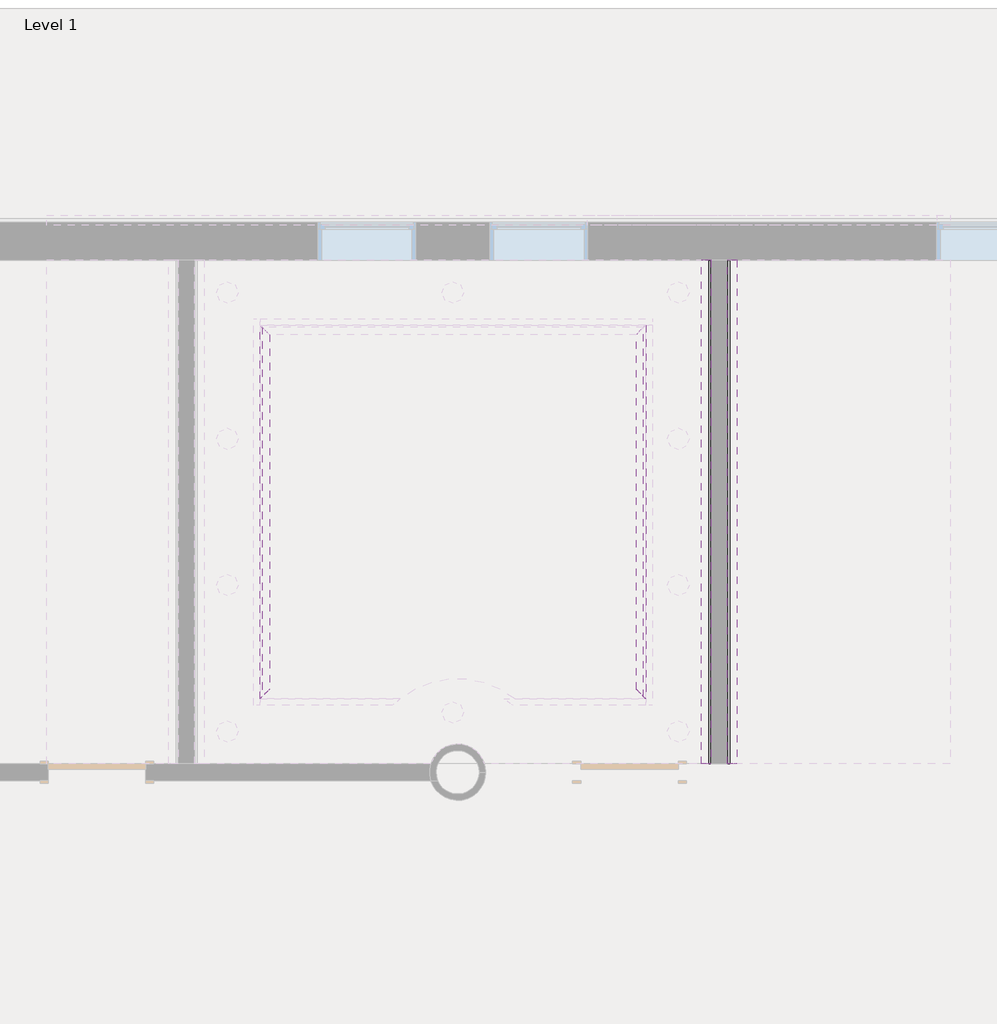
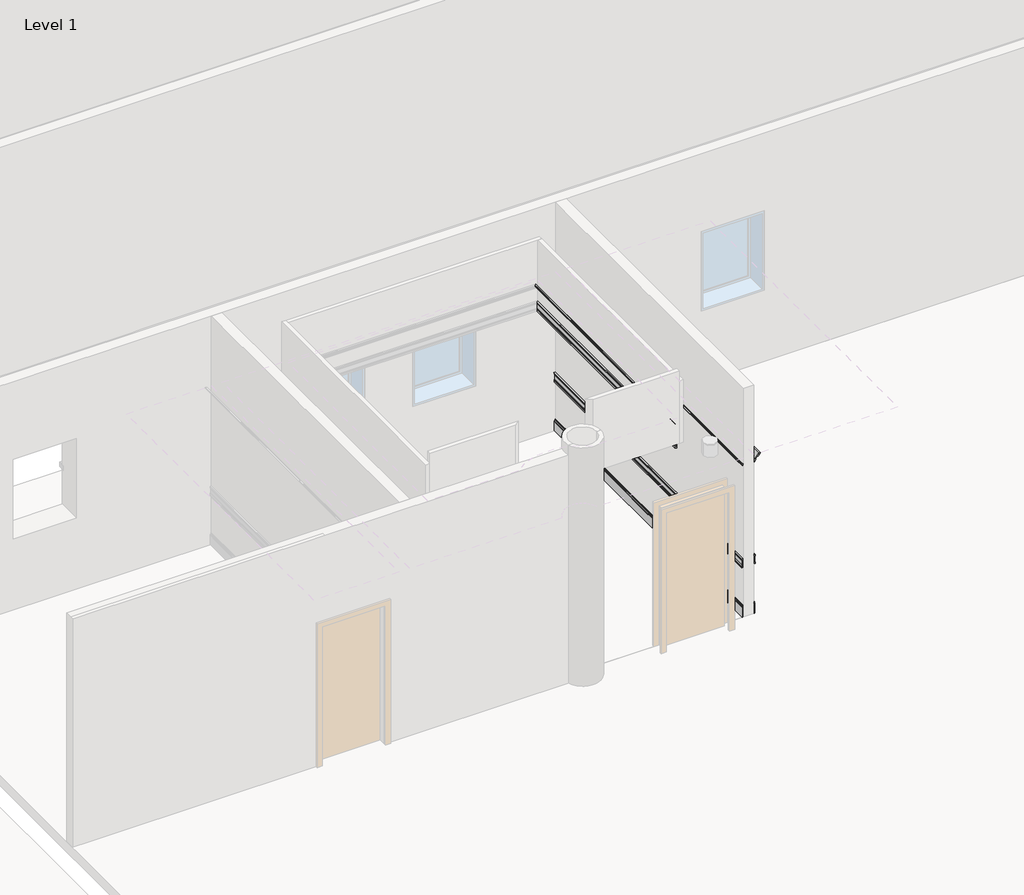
# One storey, part 19 of 20: 10 proxies.
"""IFC4 building model written with IfcOpenShell, lengths in millimetres."""

from ifc_helpers import new_model, si_unit, point, frame, frame_2d, origin, place, context, project, spatial, polyline, circle_curve, ellipse_curve, trimmed, segment, composite_curve, outline, extrude, element, save
from ifc_brep_helpers import plane_surface, cylinder_surface, revolved_surface, advanced_brep

model = new_model("IFC4")

# Units and contexts
model_context = context("Model", 3, world=origin())
ifc_project = project(units=[si_unit("LENGTHUNIT", "METRE", prefix="MILLI")], contexts=[model_context])

# Site, building, storey
site = spatial("IfcSite", under=ifc_project)
building = spatial("IfcBuilding", under=site)
storey = spatial("IfcBuildingStorey", under=building, Name="Level 1", Elevation=0.0)

# Proxies
placement = place(None, origin())
element("IfcBuildingElementProxy", 1, Name="Wall Sweeps", at=placement, inside=storey, context=model_context, shape_type="AdvancedBrep", body=[
    advanced_brep(
    [(-11474.2076946, 5223.7273319, 2457.45), (-11475.7951946, 5222.1398319, 2455.8625), (-11475.7951946, 5222.1398319, 2438.4), (-11455.1576946, 5242.7773319, 2438.4), (-11455.1576946, 5242.7773319, 2457.45), (-11457.5389446, 5240.3960819, 2457.45), (-11458.6301983, 5239.3048282, 2463.7601121), (-11462.5590603, 5235.3759661, 2472.53125), (-11464.6826946, 5233.2523319, 2472.53125), (-11464.6826946, 5233.2523319, 2543.96875), (-11462.5590603, 5235.3759661, 2543.96875), (-11458.6301983, 5239.3048282, 2552.7398879), (-11457.5389446, 5240.3960819, 2559.05), (-11455.1576946, 5242.7773319, 2559.05), (-11455.1576946, 5242.7773319, 2578.1), (-11475.7951946, 5222.1398319, 2578.1), (-11475.7951946, 5222.1398319, 2560.6375), (-11474.2076946, 5223.7273319, 2559.05), (-11475.7951946, 8724.1648319, 2455.8625), (-11474.2076946, 8722.5773319, 2457.45), (-11474.2076946, 8722.5773319, 2559.05), (-11475.7951946, 8724.1648319, 2560.6375), (-11475.7951946, 8724.1648319, 2578.1), (-11455.1576946, 8703.5273319, 2578.1), (-11455.1576946, 8703.5273319, 2559.05), (-11457.5389446, 8705.9085819, 2559.05), (-11458.6301983, 8706.9998357, 2552.7398879), (-11462.5590603, 8710.9286977, 2543.96875), (-11464.6826946, 8713.0523319, 2543.96875), (-11464.6826946, 8713.0523319, 2472.53125), (-11462.5590603, 8710.9286977, 2472.53125), (-11458.6301983, 8706.9998357, 2463.7601121), (-11457.5389446, 8705.9085819, 2457.45), (-11455.1576946, 8703.5273319, 2457.45), (-11455.1576946, 8703.5273319, 2438.4), (-11475.7951946, 8724.1648319, 2438.4)],
    [
        (0, 1),
        (1, 2),
        (2, 3),
        (3, 4),
        (4, 5),
        (5, 6, ellipse_curve(frame((-11462.5590603, 5235.3759661, 2459.83125), z_axis=(0.7071067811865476, -0.7071067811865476, 0.0), x_axis=(-0.7071067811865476, -0.7071067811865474, 0.0)), 7.8577241, 5.55625)),
        (6, 7, ellipse_curve(frame((-11450.8433753, 5247.0916512, 2472.5135672), z_axis=(-0.7071067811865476, 0.7071067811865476, 0.0), x_axis=(0.7071067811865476, 0.7071067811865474, 0.0)), 16.5684996, 11.7156984)),
        (7, 8),
        (8, 9),
        (9, 10),
        (10, 11, ellipse_curve(frame((-11450.8433753, 5247.0916512, 2543.9864328), z_axis=(-0.7071067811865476, 0.7071067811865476, 0.0), x_axis=(0.7071067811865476, 0.7071067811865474, 0.0)), 16.5684996, 11.7156984)),
        (11, 12, ellipse_curve(frame((-11462.5590603, 5235.3759661, 2556.66875), z_axis=(0.7071067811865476, -0.7071067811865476, 0.0), x_axis=(-0.7071067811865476, -0.7071067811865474, 0.0)), 7.8577241, 5.55625)),
        (12, 13),
        (13, 14),
        (14, 15),
        (15, 16),
        (16, 17),
        (17, 0),
        (18, 19),
        (19, 20),
        (20, 21),
        (21, 22),
        (22, 23),
        (23, 24),
        (24, 25),
        (25, 26, ellipse_curve(frame((-11462.5590603, 8710.9286977, 2556.66875), z_axis=(0.7071067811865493, 0.7071067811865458, 0.0), x_axis=(0.7071067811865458, -0.7071067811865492, 0.0)), 7.8577241, 5.55625)),
        (26, 27, ellipse_curve(frame((-11450.8433753, 8699.2130126, 2543.9864328), z_axis=(-0.7071067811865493, -0.7071067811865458, 0.0), x_axis=(-0.7071067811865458, 0.7071067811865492, 0.0)), 16.5684996, 11.7156984)),
        (27, 28),
        (28, 29),
        (29, 30),
        (30, 31, ellipse_curve(frame((-11450.8433753, 8699.2130126, 2472.5135672), z_axis=(-0.7071067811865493, -0.7071067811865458, 0.0), x_axis=(-0.7071067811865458, 0.7071067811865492, 0.0)), 16.5684996, 11.7156984)),
        (31, 32, ellipse_curve(frame((-11462.5590603, 8710.9286977, 2459.83125), z_axis=(0.7071067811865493, 0.7071067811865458, 0.0), x_axis=(0.7071067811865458, -0.7071067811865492, 0.0)), 7.8577241, 5.55625)),
        (32, 33),
        (33, 34),
        (34, 35),
        (35, 18),
        (0, 19),
        (18, 1),
        (35, 2),
        (34, 3),
        (33, 4),
        (32, 5),
        (31, 6),
        (30, 7),
        (29, 8),
        (28, 9),
        (27, 10),
        (26, 11),
        (25, 12),
        (24, 13),
        (23, 14),
        (22, 15),
        (21, 16),
        (20, 17),
    ],
    [
        plane_surface(frame((-11475.7951946, 5222.1398319, 2743.2), z_axis=(0.7071067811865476, -0.7071067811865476, 0.0), x_axis=(0.7071067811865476, 0.7071067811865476, 0.0))),
        plane_surface(frame((-11475.7951946, 8724.1648319, 2743.2), z_axis=(0.7071067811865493, 0.7071067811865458, 0.0), x_axis=(0.7071067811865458, -0.7071067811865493, 0.0))),
        plane_surface(frame((-11474.2076946, 5223.7273319, 2457.45), z_axis=(-0.7071067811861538, 0.0, 0.7071067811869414), x_axis=(0.0, 1.0, 0.0))),
        plane_surface(frame((-11475.7951946, 5222.1398319, 2455.8625), z_axis=(-1.0, 0.0, 0.0), x_axis=(0.0, 1.0, 0.0))),
        plane_surface(frame((-11475.7951946, 5222.1398319, 2438.4), z_axis=(0.0, 0.0, -1.0), x_axis=(0.0, 1.0, 0.0))),
        plane_surface(frame((-11455.1576946, 5242.7773319, 2438.4), z_axis=(1.0, 0.0, 0.0), x_axis=(0.0, 1.0, 0.0))),
        plane_surface(frame((-11455.1576946, 5242.7773319, 2457.45), z_axis=(0.0, 0.0, 1.0), x_axis=(0.0, 1.0, 0.0))),
        cylinder_surface(frame((-11462.5590603, 5222.1398319, 2459.83125), z_axis=(0.0, -1.0, 0.0), x_axis=(1.0, 0.0, 0.0)), 5.55625),
        revolved_surface(polyline([(-11439.127676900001, 8710.928711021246, 2472.5135672), (-11439.127676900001, 5235.375952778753, 2472.5135672)]), (-11450.8433753, 5222.1398319, 2472.5135672), (0.0, 1.0, 0.0)),
        plane_surface(frame((-11462.5590603, 5235.3759661, 2472.53125), z_axis=(0.0, 0.0, 1.0), x_axis=(0.0, 1.0, 0.0))),
        plane_surface(frame((-11464.6826946, 5233.2523319, 2472.53125), z_axis=(1.0, 0.0, 0.0), x_axis=(0.0, 1.0, 0.0))),
        plane_surface(frame((-11464.6826946, 5233.2523319, 2543.96875), z_axis=(0.0, 0.0, -1.0), x_axis=(0.0, 1.0, 0.0))),
        revolved_surface(polyline([(-11439.127676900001, 8710.928711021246, 2543.9864328), (-11439.127676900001, 5235.375952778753, 2543.9864328)]), (-11450.8433753, 5222.1398319, 2543.9864328), (0.0, 1.0, 0.0)),
        cylinder_surface(frame((-11462.5590603, 5222.1398319, 2556.66875), z_axis=(0.0, -1.0, 0.0), x_axis=(1.0, 0.0, 0.0)), 5.55625),
        plane_surface(frame((-11457.5389446, 5240.3960819, 2559.05), z_axis=(0.0, 0.0, -1.0), x_axis=(0.0, 1.0, 0.0))),
        plane_surface(frame((-11455.1576946, 5242.7773319, 2559.05), z_axis=(1.0, 0.0, 0.0), x_axis=(0.0, 1.0, 0.0))),
        plane_surface(frame((-11455.1576946, 5242.7773319, 2578.1), z_axis=(0.0, 0.0, 1.0), x_axis=(0.0, 1.0, 0.0))),
        plane_surface(frame((-11475.7951946, 5222.1398319, 2578.1), z_axis=(-1.0, 0.0, 0.0), x_axis=(0.0, 1.0, 0.0))),
        plane_surface(frame((-11475.7951946, 5222.1398319, 2560.6375), z_axis=(-0.7071067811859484, 0.0, -0.7071067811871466), x_axis=(0.0, 1.0, 0.0))),
        plane_surface(frame((-11474.2076946, 5223.7273319, 2559.05), z_axis=(-1.0, 0.0, 0.0), x_axis=(0.0, 1.0, 0.0))),
    ],
    [
        (0, [[1, 2, 3, 4, 5, 6, 7, 8, 9, 10, 11, 12, 13, 14, 15, 16, 17, 18]]),
        (1, [[19, 20, 21, 22, 23, 24, 25, 26, 27, 28, 29, 30, 31, 32, 33, 34, 35, 36]]),
        (2, [[-1, 37, -19, 38]]),
        (3, [[-2, -38, -36, 39]]),
        (4, [[-3, -39, -35, 40]]),
        (5, [[-4, -40, -34, 41]]),
        (6, [[-5, -41, -33, 42]]),
        (7, [[-6, -42, -32, 43]]),
        (8, [[-7, -43, -31, 44]]),
        (9, [[-8, -44, -30, 45]]),
        (10, [[-9, -45, -29, 46]]),
        (11, [[-10, -46, -28, 47]]),
        (12, [[-11, -47, -27, 48]]),
        (13, [[-12, -48, -26, 49]]),
        (14, [[-13, -49, -25, 50]]),
        (15, [[-14, -50, -24, 51]]),
        (16, [[-15, -51, -23, 52]]),
        (17, [[-16, -52, -22, 53]]),
        (18, [[-17, -53, -21, 54]]),
        (19, [[-18, -54, -20, -37]]),
    ],
),
])
element("IfcBuildingElementProxy", 2, Name="Wall Sweeps", at=placement, inside=storey, context=model_context, shape_type="AdvancedBrep", body=[
    advanced_brep(
    [(-11407.602032, 5290.3329945, 2895.599973), (-11475.7951946, 5222.1398319, 2809.0919306), (-11475.7951946, 5222.1398319, 2784.475), (-11468.6123274, 5229.3226991, 2784.475), (-11464.6362015, 5233.298825, 2790.9297498), (-11464.6362015, 5233.298825, 2795.2157037), (-11457.5101577, 5240.4248688, 2805.6207604), (-11453.9213168, 5244.0137097, 2805.6207604), (-11453.9213168, 5244.0137097, 2810.6554653), (-11450.6939418, 5247.2410846, 2810.6554653), (-11425.19768, 5272.7373465, 2849.3194168), (-11417.9554507, 5279.9795758, 2854.0442936), (-11404.4262951, 5293.5087314, 2873.3698146), (-11404.4262951, 5293.5087314, 2878.8202934), (-11401.6577313, 5296.2772952, 2878.8202934), (-11392.8600384, 5305.0749881, 2884.9986257), (-11389.410554, 5308.5244725, 2888.4481102), (-11386.8951946, 5311.0398319, 2888.4481102), (-11386.8951946, 5311.0398319, 2895.599973), (-11407.602032, 8655.9716694, 2895.599973), (-11386.8951946, 8635.2648319, 2895.599973), (-11386.8951946, 8635.2648319, 2888.4481102), (-11389.410554, 8637.7801913, 2888.4481102), (-11392.8600384, 8641.2296758, 2884.9986257), (-11401.6577313, 8650.0273687, 2878.8202934), (-11404.4262951, 8652.7959325, 2878.8202934), (-11404.4262951, 8652.7959325, 2873.3698146), (-11417.9554507, 8666.3250881, 2854.0442936), (-11425.19768, 8673.5673174, 2849.3194168), (-11450.6939418, 8699.0635792, 2810.6554653), (-11453.9213168, 8702.2909541, 2810.6554653), (-11453.9213168, 8702.2909541, 2805.6207604), (-11457.5101577, 8705.879795, 2805.6207604), (-11464.6362015, 8713.0058388, 2795.2157037), (-11464.6362015, 8713.0058388, 2790.9297498), (-11468.6123274, 8716.9819647, 2784.475), (-11475.7951946, 8724.1648319, 2784.475), (-11475.7951946, 8724.1648319, 2809.0919306)],
    [
        (0, 1),
        (1, 2),
        (2, 3),
        (3, 4, ellipse_curve(frame((-11461.358908, 5236.5761185, 2784.4589154), z_axis=(-0.7071067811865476, 0.7071067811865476, 0.0), x_axis=(0.7071067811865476, 0.7071067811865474, 0.0)), 10.2579093, 7.2534372)),
        (4, 5),
        (5, 6, ellipse_curve(frame((-11467.9977241, 5229.9373024, 2805.1606001), z_axis=(0.7071067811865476, -0.7071067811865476, 0.0), x_axis=(-0.7071067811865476, -0.7071067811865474, 0.0)), 14.8459286, 10.4976568)),
        (6, 7),
        (7, 8),
        (8, 9),
        (9, 10, ellipse_curve(frame((-11403.7455399, 5294.1894866, 2807.4346746), z_axis=(-0.7071067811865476, 0.7071067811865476, 0.0), x_axis=(0.7071067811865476, 0.7071067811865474, 0.0)), 66.5511223, 47.0587499)),
        (10, 11),
        (11, 12, ellipse_curve(frame((-11426.263642, 5271.6713845, 2874.2589994), z_axis=(0.7071067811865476, -0.7071067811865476, 0.0), x_axis=(-0.7071067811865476, -0.7071067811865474, 0.0)), 30.9082633, 21.8554426)),
        (12, 13),
        (13, 14),
        (14, 15, ellipse_curve(frame((-11400.7154046, 5297.2196219, 2886.8314026), z_axis=(0.7071067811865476, -0.7071067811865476, 0.0), x_axis=(-0.7071067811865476, -0.7071067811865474, 0.0)), 11.4075282, 8.0663405)),
        (15, 16, ellipse_curve(frame((-11385.5760535, 5312.358973, 2881.1641253), z_axis=(-0.7071067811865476, 0.7071067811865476, 0.0), x_axis=(0.7071067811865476, 0.7071067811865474, 0.0)), 11.6412911, 8.2316359)),
        (16, 17),
        (17, 18),
        (18, 0),
        (19, 20),
        (20, 21),
        (21, 22),
        (22, 23, ellipse_curve(frame((-11385.5760535, 8633.9456909, 2881.1641253), z_axis=(-0.7071067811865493, -0.7071067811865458, 0.0), x_axis=(-0.7071067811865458, 0.7071067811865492, 0.0)), 11.6412911, 8.2316359)),
        (23, 24, ellipse_curve(frame((-11400.7154046, 8649.085042, 2886.8314026), z_axis=(0.7071067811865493, 0.7071067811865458, 0.0), x_axis=(0.7071067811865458, -0.7071067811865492, 0.0)), 11.4075282, 8.0663405)),
        (24, 25),
        (25, 26),
        (26, 27, ellipse_curve(frame((-11426.263642, 8674.6332794, 2874.2589994), z_axis=(0.7071067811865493, 0.7071067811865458, 0.0), x_axis=(0.7071067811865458, -0.7071067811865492, 0.0)), 30.9082633, 21.8554426)),
        (27, 28),
        (28, 29, ellipse_curve(frame((-11403.7455399, 8652.1151772, 2807.4346746), z_axis=(-0.7071067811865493, -0.7071067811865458, 0.0), x_axis=(-0.7071067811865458, 0.7071067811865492, 0.0)), 66.5511223, 47.0587499)),
        (29, 30),
        (30, 31),
        (31, 32),
        (32, 33, ellipse_curve(frame((-11467.9977241, 8716.3673615, 2805.1606001), z_axis=(0.7071067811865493, 0.7071067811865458, 0.0), x_axis=(0.7071067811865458, -0.7071067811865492, 0.0)), 14.8459286, 10.4976568)),
        (33, 34),
        (34, 35, ellipse_curve(frame((-11461.358908, 8709.7285454, 2784.4589154), z_axis=(-0.7071067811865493, -0.7071067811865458, 0.0), x_axis=(-0.7071067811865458, 0.7071067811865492, 0.0)), 10.2579093, 7.2534372)),
        (35, 36),
        (36, 37),
        (37, 19),
        (0, 19),
        (37, 1),
        (36, 2),
        (35, 3),
        (34, 4),
        (33, 5),
        (32, 6),
        (31, 7),
        (30, 8),
        (29, 9),
        (28, 10),
        (27, 11),
        (26, 12),
        (25, 13),
        (24, 14),
        (23, 15),
        (22, 16),
        (21, 17),
        (20, 18),
    ],
    [
        plane_surface(frame((-11475.7951946, 5222.1398319, 3089.275), z_axis=(0.7071067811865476, -0.7071067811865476, 0.0), x_axis=(0.7071067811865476, 0.7071067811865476, 0.0))),
        plane_surface(frame((-11475.7951946, 8724.1648319, 3089.275), z_axis=(0.7071067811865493, 0.7071067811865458, 0.0), x_axis=(0.7071067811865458, -0.7071067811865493, 0.0))),
        plane_surface(frame((-11407.602032, 5290.3329945, 2895.599973), z_axis=(-0.7853358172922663, 0.0, 0.6190699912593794), x_axis=(0.0, 1.0, 0.0))),
        plane_surface(frame((-11475.7951946, 5222.1398319, 2809.0919306), z_axis=(-1.0, 0.0, 0.0), x_axis=(0.0, 1.0, 0.0))),
        plane_surface(frame((-11475.7951946, 5222.1398319, 2784.475), z_axis=(0.0, 0.0, -1.0), x_axis=(0.0, 1.0, 0.0))),
        revolved_surface(polyline([(-11454.105470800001, 8716.981982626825, 2784.4589154), (-11454.105470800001, 5229.322681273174, 2784.4589154)]), (-11461.358908, 5222.1398319, 2784.4589154), (0.0, 1.0, 0.0)),
        plane_surface(frame((-11464.6362015, 5233.298825, 2790.9297498), z_axis=(1.0, 0.0, 0.0), x_axis=(0.0, 1.0, 0.0))),
        cylinder_surface(frame((-11467.9977241, 5222.1398319, 2805.1606001), z_axis=(0.0, -1.0, 0.0), x_axis=(1.0, 0.0, 0.0)), 10.4976568),
        plane_surface(frame((-11457.5101577, 5240.4248688, 2805.6207604), z_axis=(0.0, 0.0, -1.0), x_axis=(0.0, 1.0, 0.0))),
        plane_surface(frame((-11453.9213168, 5244.0137097, 2805.6207604), z_axis=(1.0, 0.0, 0.0), x_axis=(0.0, 1.0, 0.0))),
        plane_surface(frame((-11453.9213168, 5244.0137097, 2810.6554653), z_axis=(0.0, 0.0, -1.0), x_axis=(0.0, 1.0, 0.0))),
        revolved_surface(polyline([(-11356.68679, 8699.173927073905, 2807.4346746), (-11356.68679, 5247.130736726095, 2807.4346746)]), (-11403.7455399, 5222.1398319, 2807.4346746), (0.0, 1.0, 0.0)),
        plane_surface(frame((-11425.19768, 5272.7373465, 2849.3194168), z_axis=(0.5464043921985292, 0.0, -0.8375214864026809), x_axis=(0.0, 1.0, 0.0))),
        cylinder_surface(frame((-11426.263642, 5222.1398319, 2874.2589994), z_axis=(0.0, -1.0, 0.0), x_axis=(1.0, 0.0, 0.0)), 21.8554426),
        plane_surface(frame((-11404.4262951, 5293.5087314, 2873.3698146), z_axis=(1.0, 0.0, 0.0), x_axis=(0.0, 1.0, 0.0))),
        plane_surface(frame((-11404.4262951, 5293.5087314, 2878.8202934), z_axis=(0.0, 0.0, -1.0), x_axis=(0.0, 1.0, 0.0))),
        cylinder_surface(frame((-11400.7154046, 5222.1398319, 2886.8314026), z_axis=(0.0, -1.0, 0.0), x_axis=(1.0, 0.0, 0.0)), 8.0663405),
        revolved_surface(polyline([(-11377.344417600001, 8642.177326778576, 2881.1641253), (-11377.344417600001, 5304.127337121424, 2881.1641253)]), (-11385.5760535, 5222.1398319, 2881.1641253), (0.0, 1.0, 0.0)),
        plane_surface(frame((-11389.410554, 5308.5244725, 2888.4481102), z_axis=(0.0, 0.0, -1.0), x_axis=(0.0, 1.0, 0.0))),
        plane_surface(frame((-11386.8951946, 5311.0398319, 2888.4481102), z_axis=(1.0, 0.0, 0.0), x_axis=(0.0, 1.0, 0.0))),
        plane_surface(frame((-11386.8951946, 5311.0398319, 2895.599973), z_axis=(0.0, 0.0, 1.0), x_axis=(0.0, 1.0, 0.0))),
    ],
    [
        (0, [[1, 2, 3, 4, 5, 6, 7, 8, 9, 10, 11, 12, 13, 14, 15, 16, 17, 18, 19]]),
        (1, [[20, 21, 22, 23, 24, 25, 26, 27, 28, 29, 30, 31, 32, 33, 34, 35, 36, 37, 38]]),
        (2, [[-1, 39, -38, 40]]),
        (3, [[-2, -40, -37, 41]]),
        (4, [[-3, -41, -36, 42]]),
        (5, [[-4, -42, -35, 43]]),
        (6, [[-5, -43, -34, 44]]),
        (7, [[-6, -44, -33, 45]]),
        (8, [[-7, -45, -32, 46]]),
        (9, [[-8, -46, -31, 47]]),
        (10, [[-9, -47, -30, 48]]),
        (11, [[-10, -48, -29, 49]]),
        (12, [[-11, -49, -28, 50]]),
        (13, [[-12, -50, -27, 51]]),
        (14, [[-13, -51, -26, 52]]),
        (15, [[-14, -52, -25, 53]]),
        (16, [[-15, -53, -24, 54]]),
        (17, [[-16, -54, -23, 55]]),
        (18, [[-17, -55, -22, 56]]),
        (19, [[-18, -56, -21, 57]]),
        (20, [[-19, -57, -20, -39]]),
    ],
),
])
element("IfcBuildingElementProxy", 3, Name="Wall Sweeps", at=placement, inside=storey, context=model_context, shape_type="AdvancedBrep", body=[
    advanced_brep(
    [(-7859.9993612, 8722.5773319, 2457.45), (-7858.4118612, 8724.1648319, 2455.8625), (-7858.4118612, 8724.1648319, 2438.4), (-7879.0493612, 8703.5273319, 2438.4), (-7879.0493612, 8703.5273319, 2457.45), (-7876.6681112, 8705.9085819, 2457.45), (-7875.5768575, 8706.9998357, 2463.7601121), (-7871.6479954, 8710.9286977, 2472.53125), (-7869.5243612, 8713.0523319, 2472.53125), (-7869.5243612, 8713.0523319, 2543.96875), (-7871.6479954, 8710.9286977, 2543.96875), (-7875.5768575, 8706.9998357, 2552.7398879), (-7876.6681112, 8705.9085819, 2559.05), (-7879.0493612, 8703.5273319, 2559.05), (-7879.0493612, 8703.5273319, 2578.1), (-7858.4118612, 8724.1648319, 2578.1), (-7858.4118612, 8724.1648319, 2560.6375), (-7859.9993612, 8722.5773319, 2559.05), (-7858.4118612, 5222.1398319, 2455.8625), (-7859.9993612, 5223.7273319, 2457.45), (-7859.9993612, 5223.7273319, 2559.05), (-7858.4118612, 5222.1398319, 2560.6375), (-7858.4118612, 5222.1398319, 2578.1), (-7879.0493612, 5242.7773319, 2578.1), (-7879.0493612, 5242.7773319, 2559.05), (-7876.6681112, 5240.3960819, 2559.05), (-7875.5768575, 5239.3048282, 2552.7398879), (-7871.6479954, 5235.3759661, 2543.96875), (-7869.5243612, 5233.2523319, 2543.96875), (-7869.5243612, 5233.2523319, 2472.53125), (-7871.6479954, 5235.3759661, 2472.53125), (-7875.5768575, 5239.3048282, 2463.7601121), (-7876.6681112, 5240.3960819, 2457.45), (-7879.0493612, 5242.7773319, 2457.45), (-7879.0493612, 5242.7773319, 2438.4), (-7858.4118612, 5222.1398319, 2438.4)],
    [
        (0, 1),
        (1, 2),
        (2, 3),
        (3, 4),
        (4, 5),
        (5, 6, ellipse_curve(frame((-7871.6479954, 8710.9286977, 2459.83125), z_axis=(-0.7071067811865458, 0.7071067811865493, 0.0), x_axis=(0.7071067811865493, 0.7071067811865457, 0.0)), 7.8577241, 5.55625)),
        (6, 7, ellipse_curve(frame((-7883.3636805, 8699.2130126, 2472.5135672), z_axis=(0.7071067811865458, -0.7071067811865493, 0.0), x_axis=(-0.7071067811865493, -0.7071067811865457, 0.0)), 16.5684996, 11.7156984)),
        (7, 8),
        (8, 9),
        (9, 10),
        (10, 11, ellipse_curve(frame((-7883.3636805, 8699.2130126, 2543.9864328), z_axis=(0.7071067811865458, -0.7071067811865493, 0.0), x_axis=(-0.7071067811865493, -0.7071067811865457, 0.0)), 16.5684996, 11.7156984)),
        (11, 12, ellipse_curve(frame((-7871.6479954, 8710.9286977, 2556.66875), z_axis=(-0.7071067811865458, 0.7071067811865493, 0.0), x_axis=(0.7071067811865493, 0.7071067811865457, 0.0)), 7.8577241, 5.55625)),
        (12, 13),
        (13, 14),
        (14, 15),
        (15, 16),
        (16, 17),
        (17, 0),
        (18, 19),
        (19, 20),
        (20, 21),
        (21, 22),
        (22, 23),
        (23, 24),
        (24, 25),
        (25, 26, ellipse_curve(frame((-7871.6479954, 5235.3759661, 2556.66875), z_axis=(-0.7071067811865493, -0.7071067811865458, 0.0), x_axis=(-0.7071067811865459, 0.7071067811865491, 0.0)), 7.8577241, 5.55625)),
        (26, 27, ellipse_curve(frame((-7883.3636805, 5247.0916512, 2543.9864328), z_axis=(0.7071067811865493, 0.7071067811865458, 0.0), x_axis=(0.7071067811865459, -0.7071067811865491, 0.0)), 16.5684996, 11.7156984)),
        (27, 28),
        (28, 29),
        (29, 30),
        (30, 31, ellipse_curve(frame((-7883.3636805, 5247.0916512, 2472.5135672), z_axis=(0.7071067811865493, 0.7071067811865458, 0.0), x_axis=(0.7071067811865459, -0.7071067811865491, 0.0)), 16.5684996, 11.7156984)),
        (31, 32, ellipse_curve(frame((-7871.6479954, 5235.3759661, 2459.83125), z_axis=(-0.7071067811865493, -0.7071067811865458, 0.0), x_axis=(-0.7071067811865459, 0.7071067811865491, 0.0)), 7.8577241, 5.55625)),
        (32, 33),
        (33, 34),
        (34, 35),
        (35, 18),
        (0, 19),
        (18, 1),
        (35, 2),
        (34, 3),
        (33, 4),
        (32, 5),
        (31, 6),
        (30, 7),
        (29, 8),
        (28, 9),
        (27, 10),
        (26, 11),
        (25, 12),
        (24, 13),
        (23, 14),
        (22, 15),
        (21, 16),
        (20, 17),
    ],
    [
        plane_surface(frame((-7858.4118612, 8724.1648319, 2743.2), z_axis=(-0.7071067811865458, 0.7071067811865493, 0.0), x_axis=(-0.7071067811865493, -0.7071067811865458, 0.0))),
        plane_surface(frame((-7858.4118612, 5222.1398319, 2743.2), z_axis=(-0.7071067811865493, -0.7071067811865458, 0.0), x_axis=(-0.7071067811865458, 0.7071067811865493, 0.0))),
        plane_surface(frame((-7859.9993612, 8722.5773319, 2457.45), z_axis=(0.7071067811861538, 0.0, 0.7071067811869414), x_axis=(0.0, -1.0, 0.0))),
        plane_surface(frame((-7858.4118612, 8724.1648319, 2455.8625), z_axis=(1.0, 0.0, 0.0), x_axis=(0.0, -1.0, 0.0))),
        plane_surface(frame((-7858.4118612, 8724.1648319, 2438.4), z_axis=(0.0, 0.0, -1.0), x_axis=(0.0, -1.0, 0.0))),
        plane_surface(frame((-7879.0493612, 8703.5273319, 2438.4), z_axis=(-1.0, 0.0, 0.0), x_axis=(0.0, -1.0, 0.0))),
        plane_surface(frame((-7879.0493612, 8703.5273319, 2457.45), z_axis=(0.0, 0.0, 1.0), x_axis=(0.0, -1.0, 0.0))),
        cylinder_surface(frame((-7871.6479954, 8724.1648319, 2459.83125), z_axis=(0.0, 1.0, 0.0), x_axis=(-1.0, 0.0, 0.0)), 5.55625),
        revolved_surface(polyline([(-7895.0793789, 5235.375952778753, 2472.5135672), (-7895.0793789, 8710.928711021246, 2472.5135672)]), (-7883.3636805, 8724.1648319, 2472.5135672), (0.0, -1.0, 0.0)),
        plane_surface(frame((-7871.6479954, 8710.9286977, 2472.53125), z_axis=(0.0, 0.0, 1.0), x_axis=(0.0, -1.0, 0.0))),
        plane_surface(frame((-7869.5243612, 8713.0523319, 2472.53125), z_axis=(-1.0, 0.0, 0.0), x_axis=(0.0, -1.0, 0.0))),
        plane_surface(frame((-7869.5243612, 8713.0523319, 2543.96875), z_axis=(0.0, 0.0, -1.0), x_axis=(0.0, -1.0, 0.0))),
        revolved_surface(polyline([(-7895.0793789, 5235.375952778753, 2543.9864328), (-7895.0793789, 8710.928711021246, 2543.9864328)]), (-7883.3636805, 8724.1648319, 2543.9864328), (0.0, -1.0, 0.0)),
        cylinder_surface(frame((-7871.6479954, 8724.1648319, 2556.66875), z_axis=(0.0, 1.0, 0.0), x_axis=(-1.0, 0.0, 0.0)), 5.55625),
        plane_surface(frame((-7876.6681112, 8705.9085819, 2559.05), z_axis=(0.0, 0.0, -1.0), x_axis=(0.0, -1.0, 0.0))),
        plane_surface(frame((-7879.0493612, 8703.5273319, 2559.05), z_axis=(-1.0, 0.0, 0.0), x_axis=(0.0, -1.0, 0.0))),
        plane_surface(frame((-7879.0493612, 8703.5273319, 2578.1), z_axis=(0.0, 0.0, 1.0), x_axis=(0.0, -1.0, 0.0))),
        plane_surface(frame((-7858.4118612, 8724.1648319, 2578.1), z_axis=(1.0, 0.0, 0.0), x_axis=(0.0, -1.0, 0.0))),
        plane_surface(frame((-7858.4118612, 8724.1648319, 2560.6375), z_axis=(0.7071067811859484, 0.0, -0.7071067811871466), x_axis=(0.0, -1.0, 0.0))),
        plane_surface(frame((-7859.9993612, 8722.5773319, 2559.05), z_axis=(1.0, 0.0, 0.0), x_axis=(0.0, -1.0, 0.0))),
    ],
    [
        (0, [[1, 2, 3, 4, 5, 6, 7, 8, 9, 10, 11, 12, 13, 14, 15, 16, 17, 18]]),
        (1, [[19, 20, 21, 22, 23, 24, 25, 26, 27, 28, 29, 30, 31, 32, 33, 34, 35, 36]]),
        (2, [[-1, 37, -19, 38]]),
        (3, [[-2, -38, -36, 39]]),
        (4, [[-3, -39, -35, 40]]),
        (5, [[-4, -40, -34, 41]]),
        (6, [[-5, -41, -33, 42]]),
        (7, [[-6, -42, -32, 43]]),
        (8, [[-7, -43, -31, 44]]),
        (9, [[-8, -44, -30, 45]]),
        (10, [[-9, -45, -29, 46]]),
        (11, [[-10, -46, -28, 47]]),
        (12, [[-11, -47, -27, 48]]),
        (13, [[-12, -48, -26, 49]]),
        (14, [[-13, -49, -25, 50]]),
        (15, [[-14, -50, -24, 51]]),
        (16, [[-15, -51, -23, 52]]),
        (17, [[-16, -52, -22, 53]]),
        (18, [[-17, -53, -21, 54]]),
        (19, [[-18, -54, -20, -37]]),
    ],
),
])
element("IfcBuildingElementProxy", 4, Name="Wall Sweeps", at=placement, inside=storey, context=model_context, shape_type="AdvancedBrep", body=[
    advanced_brep(
    [(-7926.6050238, 8655.9716694, 2895.599973), (-7858.4118612, 8724.1648319, 2809.0919306), (-7858.4118612, 8724.1648319, 2784.475), (-7865.5947284, 8716.9819647, 2784.475), (-7869.5708543, 8713.0058388, 2790.9297498), (-7869.5708543, 8713.0058388, 2795.2157037), (-7876.6968981, 8705.879795, 2805.6207604), (-7880.285739, 8702.2909541, 2805.6207604), (-7880.285739, 8702.2909541, 2810.6554653), (-7883.5131139, 8699.0635792, 2810.6554653), (-7909.0093758, 8673.5673174, 2849.3194168), (-7916.2516051, 8666.3250881, 2854.0442936), (-7929.7807607, 8652.7959325, 2873.3698146), (-7929.7807607, 8652.7959325, 2878.8202934), (-7932.5493245, 8650.0273687, 2878.8202934), (-7941.3470174, 8641.2296758, 2884.9986257), (-7944.7965018, 8637.7801913, 2888.4481102), (-7947.3118612, 8635.2648319, 2888.4481102), (-7947.3118612, 8635.2648319, 2895.599973), (-7926.6050238, 5290.3329945, 2895.599973), (-7947.3118612, 5311.0398319, 2895.599973), (-7947.3118612, 5311.0398319, 2888.4481102), (-7944.7965018, 5308.5244725, 2888.4481102), (-7941.3470174, 5305.0749881, 2884.9986257), (-7932.5493245, 5296.2772952, 2878.8202934), (-7929.7807607, 5293.5087314, 2878.8202934), (-7929.7807607, 5293.5087314, 2873.3698146), (-7916.2516051, 5279.9795758, 2854.0442936), (-7909.0093758, 5272.7373465, 2849.3194168), (-7883.5131139, 5247.2410846, 2810.6554653), (-7880.285739, 5244.0137097, 2810.6554653), (-7880.285739, 5244.0137097, 2805.6207604), (-7876.6968981, 5240.4248688, 2805.6207604), (-7869.5708543, 5233.298825, 2795.2157037), (-7869.5708543, 5233.298825, 2790.9297498), (-7865.5947284, 5229.3226991, 2784.475), (-7858.4118612, 5222.1398319, 2784.475), (-7858.4118612, 5222.1398319, 2809.0919306)],
    [
        (0, 1),
        (1, 2),
        (2, 3),
        (3, 4, ellipse_curve(frame((-7872.8481478, 8709.7285454, 2784.4589154), z_axis=(0.7071067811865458, -0.7071067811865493, 0.0), x_axis=(-0.7071067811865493, -0.7071067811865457, 0.0)), 10.2579093, 7.2534372)),
        (4, 5),
        (5, 6, ellipse_curve(frame((-7866.2093317, 8716.3673615, 2805.1606001), z_axis=(-0.7071067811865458, 0.7071067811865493, 0.0), x_axis=(0.7071067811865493, 0.7071067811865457, 0.0)), 14.8459286, 10.4976568)),
        (6, 7),
        (7, 8),
        (8, 9),
        (9, 10, ellipse_curve(frame((-7930.4615159, 8652.1151772, 2807.4346746), z_axis=(0.7071067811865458, -0.7071067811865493, 0.0), x_axis=(-0.7071067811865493, -0.7071067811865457, 0.0)), 66.5511223, 47.0587499)),
        (10, 11),
        (11, 12, ellipse_curve(frame((-7907.9434138, 8674.6332794, 2874.2589994), z_axis=(-0.7071067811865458, 0.7071067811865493, 0.0), x_axis=(0.7071067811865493, 0.7071067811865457, 0.0)), 30.9082633, 21.8554426)),
        (12, 13),
        (13, 14),
        (14, 15, ellipse_curve(frame((-7933.4916512, 8649.085042, 2886.8314026), z_axis=(-0.7071067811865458, 0.7071067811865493, 0.0), x_axis=(0.7071067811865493, 0.7071067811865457, 0.0)), 11.4075282, 8.0663405)),
        (15, 16, ellipse_curve(frame((-7948.6310023, 8633.9456909, 2881.1641253), z_axis=(0.7071067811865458, -0.7071067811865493, 0.0), x_axis=(-0.7071067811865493, -0.7071067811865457, 0.0)), 11.6412911, 8.2316359)),
        (16, 17),
        (17, 18),
        (18, 0),
        (19, 20),
        (20, 21),
        (21, 22),
        (22, 23, ellipse_curve(frame((-7948.6310023, 5312.358973, 2881.1641253), z_axis=(0.7071067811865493, 0.7071067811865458, 0.0), x_axis=(0.7071067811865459, -0.7071067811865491, 0.0)), 11.6412911, 8.2316359)),
        (23, 24, ellipse_curve(frame((-7933.4916512, 5297.2196219, 2886.8314026), z_axis=(-0.7071067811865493, -0.7071067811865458, 0.0), x_axis=(-0.7071067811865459, 0.7071067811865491, 0.0)), 11.4075282, 8.0663405)),
        (24, 25),
        (25, 26),
        (26, 27, ellipse_curve(frame((-7907.9434138, 5271.6713845, 2874.2589994), z_axis=(-0.7071067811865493, -0.7071067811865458, 0.0), x_axis=(-0.7071067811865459, 0.7071067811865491, 0.0)), 30.9082633, 21.8554426)),
        (27, 28),
        (28, 29, ellipse_curve(frame((-7930.4615159, 5294.1894866, 2807.4346746), z_axis=(0.7071067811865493, 0.7071067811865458, 0.0), x_axis=(0.7071067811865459, -0.7071067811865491, 0.0)), 66.5511223, 47.0587499)),
        (29, 30),
        (30, 31),
        (31, 32),
        (32, 33, ellipse_curve(frame((-7866.2093317, 5229.9373024, 2805.1606001), z_axis=(-0.7071067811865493, -0.7071067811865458, 0.0), x_axis=(-0.7071067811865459, 0.7071067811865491, 0.0)), 14.8459286, 10.4976568)),
        (33, 34),
        (34, 35, ellipse_curve(frame((-7872.8481478, 5236.5761185, 2784.4589154), z_axis=(0.7071067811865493, 0.7071067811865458, 0.0), x_axis=(0.7071067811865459, -0.7071067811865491, 0.0)), 10.2579093, 7.2534372)),
        (35, 36),
        (36, 37),
        (37, 19),
        (0, 19),
        (37, 1),
        (36, 2),
        (35, 3),
        (34, 4),
        (33, 5),
        (32, 6),
        (31, 7),
        (30, 8),
        (29, 9),
        (28, 10),
        (27, 11),
        (26, 12),
        (25, 13),
        (24, 14),
        (23, 15),
        (22, 16),
        (21, 17),
        (20, 18),
    ],
    [
        plane_surface(frame((-7858.4118612, 8724.1648319, 3089.275), z_axis=(-0.7071067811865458, 0.7071067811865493, 0.0), x_axis=(-0.7071067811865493, -0.7071067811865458, 0.0))),
        plane_surface(frame((-7858.4118612, 5222.1398319, 3089.275), z_axis=(-0.7071067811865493, -0.7071067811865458, 0.0), x_axis=(-0.7071067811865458, 0.7071067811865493, 0.0))),
        plane_surface(frame((-7926.6050238, 8655.9716694, 2895.599973), z_axis=(0.7853358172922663, 0.0, 0.6190699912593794), x_axis=(0.0, -1.0, 0.0))),
        plane_surface(frame((-7858.4118612, 8724.1648319, 2809.0919306), z_axis=(1.0, 0.0, 0.0), x_axis=(0.0, -1.0, 0.0))),
        plane_surface(frame((-7858.4118612, 8724.1648319, 2784.475), z_axis=(0.0, 0.0, -1.0), x_axis=(0.0, -1.0, 0.0))),
        revolved_surface(polyline([(-7880.101585, 5229.322681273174, 2784.4589154), (-7880.101585, 8716.981982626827, 2784.4589154)]), (-7872.8481478, 8724.1648319, 2784.4589154), (0.0, -1.0, 0.0)),
        plane_surface(frame((-7869.5708543, 8713.0058388, 2790.9297498), z_axis=(-1.0, 0.0, 0.0), x_axis=(0.0, -1.0, 0.0))),
        cylinder_surface(frame((-7866.2093317, 8724.1648319, 2805.1606001), z_axis=(0.0, 1.0, 0.0), x_axis=(-1.0, 0.0, 0.0)), 10.4976568),
        plane_surface(frame((-7876.6968981, 8705.879795, 2805.6207604), z_axis=(0.0, 0.0, -1.0), x_axis=(0.0, -1.0, 0.0))),
        plane_surface(frame((-7880.285739, 8702.2909541, 2805.6207604), z_axis=(-1.0, 0.0, 0.0), x_axis=(0.0, -1.0, 0.0))),
        plane_surface(frame((-7880.285739, 8702.2909541, 2810.6554653), z_axis=(0.0, 0.0, -1.0), x_axis=(0.0, -1.0, 0.0))),
        revolved_surface(polyline([(-7977.520265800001, 5247.130736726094, 2807.4346746), (-7977.520265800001, 8699.173927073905, 2807.4346746)]), (-7930.4615159, 8724.1648319, 2807.4346746), (0.0, -1.0, 0.0)),
        plane_surface(frame((-7909.0093758, 8673.5673174, 2849.3194168), z_axis=(-0.5464043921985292, 0.0, -0.8375214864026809), x_axis=(0.0, -1.0, 0.0))),
        cylinder_surface(frame((-7907.9434138, 8724.1648319, 2874.2589994), z_axis=(0.0, 1.0, 0.0), x_axis=(-1.0, 0.0, 0.0)), 21.8554426),
        plane_surface(frame((-7929.7807607, 8652.7959325, 2873.3698146), z_axis=(-1.0, 0.0, 0.0), x_axis=(0.0, -1.0, 0.0))),
        plane_surface(frame((-7929.7807607, 8652.7959325, 2878.8202934), z_axis=(0.0, 0.0, -1.0), x_axis=(0.0, -1.0, 0.0))),
        cylinder_surface(frame((-7933.4916512, 8724.1648319, 2886.8314026), z_axis=(0.0, 1.0, 0.0), x_axis=(-1.0, 0.0, 0.0)), 8.0663405),
        revolved_surface(polyline([(-7956.862638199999, 5304.127337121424, 2881.1641253), (-7956.862638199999, 8642.177326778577, 2881.1641253)]), (-7948.6310023, 8724.1648319, 2881.1641253), (0.0, -1.0, 0.0)),
        plane_surface(frame((-7944.7965018, 8637.7801913, 2888.4481102), z_axis=(0.0, 0.0, -1.0), x_axis=(0.0, -1.0, 0.0))),
        plane_surface(frame((-7947.3118612, 8635.2648319, 2888.4481102), z_axis=(-1.0, 0.0, 0.0), x_axis=(0.0, -1.0, 0.0))),
        plane_surface(frame((-7947.3118612, 8635.2648319, 2895.599973), z_axis=(0.0, 0.0, 1.0), x_axis=(0.0, -1.0, 0.0))),
    ],
    [
        (0, [[1, 2, 3, 4, 5, 6, 7, 8, 9, 10, 11, 12, 13, 14, 15, 16, 17, 18, 19]]),
        (1, [[20, 21, 22, 23, 24, 25, 26, 27, 28, 29, 30, 31, 32, 33, 34, 35, 36, 37, 38]]),
        (2, [[-1, 39, -38, 40]]),
        (3, [[-2, -40, -37, 41]]),
        (4, [[-3, -41, -36, 42]]),
        (5, [[-4, -42, -35, 43]]),
        (6, [[-5, -43, -34, 44]]),
        (7, [[-6, -44, -33, 45]]),
        (8, [[-7, -45, -32, 46]]),
        (9, [[-8, -46, -31, 47]]),
        (10, [[-9, -47, -30, 48]]),
        (11, [[-10, -48, -29, 49]]),
        (12, [[-11, -49, -28, 50]]),
        (13, [[-12, -50, -27, 51]]),
        (14, [[-13, -51, -26, 52]]),
        (15, [[-14, -52, -25, 53]]),
        (16, [[-15, -53, -24, 54]]),
        (17, [[-16, -54, -23, 55]]),
        (18, [[-17, -55, -22, 56]]),
        (19, [[-18, -56, -21, 57]]),
        (20, [[-19, -57, -20, -39]]),
    ],
),
])
element("IfcBuildingElementProxy", 5, Name="Wall Sweeps", at=placement, inside=storey, context=model_context, shape_type="SweptSolid", body=[
    extrude(outline(composite_curve([segment(polyline([(146.05, -7264.6868613), (0.0, -7264.6868613), (0.0, -7248.8118612), (25.4, -7248.8118612), (26.9875, -7250.3993612), (138.1125, -7250.3993612), (139.7, -7248.8118612), (184.15, -7248.8118612), (184.15, -7255.1618612), (178.4425393, -7257.6079158)]), True, "CONTINUOUS"), segment(trimmed(circle_curve(frame_2d((173.434375, -7261.5118612)), 6.35), [point((178.4425393, -7257.6079158))], [point((169.9015472, -7256.2353446))], True, "CARTESIAN"), True, "CONTINUOUS"), segment(polyline([(169.9015472, -7256.2353446), (159.8244174, -7263.0766374)]), True, "CONTINUOUS"), segment(trimmed(circle_curve(frame_2d((154.447453, -7255.1618612)), 9.5684601), [point((159.8244174, -7263.0766374))], [point((147.838329, -7262.0810308))], False, "CARTESIAN"), True, "CONTINUOUS"), segment(trimmed(circle_curve(frame_2d((147.2928122, -7262.6576161)), 0.79375), [point((147.838329, -7262.0810308))], [point((146.5164076, -7262.4925862))], True, "CARTESIAN"), True, "CONTINUOUS"), segment(polyline([(146.5164076, -7262.4925862), (146.05, -7264.6868613)]), True, "CONTINUOUS")], self_intersect=False)), frame((0.0, 4612.5398319, 0.0), z_axis=(0.0, 1.0, 0.0), x_axis=(0.0, 0.0, 1.0)), (0.0, 0.0, 1.0), 4721.225),
])
element("IfcBuildingElementProxy", 6, Name="Wall Sweeps", at=placement, inside=storey, context=model_context, shape_type="SweptSolid", body=[
    extrude(outline(composite_curve([segment(polyline([(146.05, -7077.3618611), (146.5164076, -7079.5561363)]), True, "CONTINUOUS"), segment(trimmed(circle_curve(frame_2d((147.2928122, -7079.3911064)), 0.79375), [point((146.5164076, -7079.5561363))], [point((147.838329, -7079.9676916))], True, "CARTESIAN"), True, "CONTINUOUS"), segment(trimmed(circle_curve(frame_2d((154.447453, -7086.8868612)), 9.5684601), [point((147.838329, -7079.9676916))], [point((159.8244174, -7078.972085))], False, "CARTESIAN"), True, "CONTINUOUS"), segment(polyline([(159.8244174, -7078.972085), (169.9015472, -7085.8133779)]), True, "CONTINUOUS"), segment(trimmed(circle_curve(frame_2d((173.434375, -7080.5368612)), 6.35), [point((169.9015472, -7085.8133779))], [point((178.4425393, -7084.4408067))], True, "CARTESIAN"), True, "CONTINUOUS"), segment(polyline([(178.4425393, -7084.4408067), (184.15, -7086.8868612), (184.15, -7093.2368612), (139.7, -7093.2368612), (138.1125, -7091.6493612), (26.9875, -7091.6493612), (25.4, -7093.2368612), (0.0, -7093.2368612), (0.0, -7077.3618611), (146.05, -7077.3618611)]), True, "CONTINUOUS")], self_intersect=False)), frame((0.0, 4612.5398319, 0.0), z_axis=(0.0, 1.0, 0.0), x_axis=(0.0, 0.0, 1.0)), (0.0, 0.0, 1.0), 4721.225),
])
element("IfcBuildingElementProxy", 7, Name="Wall Sweeps", at=placement, inside=storey, context=model_context, shape_type="SweptSolid", body=[
    extrude(outline(composite_curve([segment(polyline([(781.05, -7250.3993612), (882.65, -7250.3993612), (884.2375, -7248.8118612), (901.7, -7248.8118612), (901.7, -7269.4493612), (882.65, -7269.4493612), (882.65, -7267.0681112)]), True, "CONTINUOUS"), segment(trimmed(circle_curve(frame_2d((880.26875, -7262.0479954)), 5.55625), [point((882.65, -7267.0681112))], [point((876.3398879, -7265.9768575))], False, "CARTESIAN"), True, "CONTINUOUS"), segment(trimmed(circle_curve(frame_2d((867.5864328, -7273.7636805)), 11.7156984), [point((876.3398879, -7265.9768575))], [point((867.56875, -7262.0479954))], True, "CARTESIAN"), True, "CONTINUOUS"), segment(polyline([(867.56875, -7262.0479954), (867.56875, -7259.9243612), (796.13125, -7259.9243612), (796.13125, -7262.0479954)]), True, "CONTINUOUS"), segment(trimmed(circle_curve(frame_2d((796.1135672, -7273.7636805)), 11.7156984), [point((796.13125, -7262.0479954))], [point((787.3601121, -7265.9768575))], True, "CARTESIAN"), True, "CONTINUOUS"), segment(trimmed(circle_curve(frame_2d((783.43125, -7262.0479954)), 5.55625), [point((787.3601121, -7265.9768575))], [point((781.05, -7267.0681112))], False, "CARTESIAN"), True, "CONTINUOUS"), segment(polyline([(781.05, -7267.0681112), (781.05, -7269.4493612), (762.0, -7269.4493612), (762.0, -7248.8118612), (779.4625, -7248.8118612), (781.05, -7250.3993612)]), True, "CONTINUOUS")], self_intersect=False)), frame((0.0, 4612.5398319, 0.0), z_axis=(0.0, 1.0, 0.0), x_axis=(0.0, 0.0, 1.0)), (0.0, 0.0, 1.0), 4721.225),
])
element("IfcBuildingElementProxy", 8, Name="Wall Sweeps", at=placement, inside=storey, context=model_context, shape_type="SweptSolid", body=[
    extrude(outline(composite_curve([segment(polyline([(781.05, -7091.6493612), (779.4625, -7093.2368612), (762.0, -7093.2368612), (762.0, -7072.5993612), (781.05, -7072.5993612), (781.05, -7074.9806112)]), True, "CONTINUOUS"), segment(trimmed(circle_curve(frame_2d((783.43125, -7080.000727)), 5.55625), [point((781.05, -7074.9806112))], [point((787.3601121, -7076.071865))], False, "CARTESIAN"), True, "CONTINUOUS"), segment(trimmed(circle_curve(frame_2d((796.1135672, -7068.285042)), 11.7156984), [point((787.3601121, -7076.071865))], [point((796.13125, -7080.000727))], True, "CARTESIAN"), True, "CONTINUOUS"), segment(polyline([(796.13125, -7080.000727), (796.13125, -7082.1243612), (867.56875, -7082.1243612), (867.56875, -7080.000727)]), True, "CONTINUOUS"), segment(trimmed(circle_curve(frame_2d((867.5864328, -7068.285042)), 11.7156984), [point((867.56875, -7080.000727))], [point((876.3398879, -7076.071865))], True, "CARTESIAN"), True, "CONTINUOUS"), segment(trimmed(circle_curve(frame_2d((880.26875, -7080.000727)), 5.55625), [point((876.3398879, -7076.071865))], [point((882.65, -7074.9806112))], False, "CARTESIAN"), True, "CONTINUOUS"), segment(polyline([(882.65, -7074.9806112), (882.65, -7072.5993612), (901.7, -7072.5993612), (901.7, -7093.2368612), (884.2375, -7093.2368612), (882.65, -7091.6493612), (781.05, -7091.6493612)]), True, "CONTINUOUS")], self_intersect=False)), frame((0.0, 4612.5398319, 0.0), z_axis=(0.0, 1.0, 0.0), x_axis=(0.0, 0.0, 1.0)), (0.0, 0.0, 1.0), 4721.225),
])
element("IfcBuildingElementProxy", 9, Name="Wall Sweeps", at=placement, inside=storey, context=model_context, shape_type="SweptSolid", body=[
    extrude(outline(composite_curve([segment(polyline([(2438.399973, -7317.0050238), (2438.399973, -7337.7118612), (2431.2481102, -7337.7118612), (2431.2481102, -7335.1965018)]), True, "CONTINUOUS"), segment(trimmed(circle_curve(frame_2d((2423.9641253, -7339.0310023)), 8.2316359), [point((2431.2481102, -7335.1965018))], [point((2427.7986257, -7331.7470174))], True, "CARTESIAN"), True, "CONTINUOUS"), segment(trimmed(circle_curve(frame_2d((2429.6314026, -7323.8916512)), 8.0663405), [point((2427.7986257, -7331.7470174))], [point((2421.6202934, -7322.9493245))], False, "CARTESIAN"), True, "CONTINUOUS"), segment(polyline([(2421.6202934, -7322.9493245), (2421.6202934, -7320.1807607), (2416.1698146, -7320.1807607)]), True, "CONTINUOUS"), segment(trimmed(circle_curve(frame_2d((2417.0589994, -7298.3434138)), 21.8554426), [point((2416.1698146, -7320.1807607))], [point((2396.8442936, -7306.6516051))], False, "CARTESIAN"), True, "CONTINUOUS"), segment(polyline([(2396.8442936, -7306.6516051), (2392.1194168, -7299.4093758)]), True, "CONTINUOUS"), segment(trimmed(circle_curve(frame_2d((2350.2346746, -7320.8615159)), 47.0587499), [point((2392.1194168, -7299.4093758))], [point((2353.4554653, -7273.9131139))], True, "CARTESIAN"), True, "CONTINUOUS"), segment(polyline([(2353.4554653, -7273.9131139), (2353.4554653, -7270.685739), (2348.4207604, -7270.685739), (2348.4207604, -7267.0968981)]), True, "CONTINUOUS"), segment(trimmed(circle_curve(frame_2d((2347.9606001, -7256.6093317)), 10.4976568), [point((2348.4207604, -7267.0968981))], [point((2338.0157037, -7259.9708543))], False, "CARTESIAN"), True, "CONTINUOUS"), segment(polyline([(2338.0157037, -7259.9708543), (2333.7297498, -7259.9708543)]), True, "CONTINUOUS"), segment(trimmed(circle_curve(frame_2d((2327.2589154, -7263.2481478)), 7.2534372), [point((2333.7297498, -7259.9708543))], [point((2327.275, -7255.9947284))], True, "CARTESIAN"), True, "CONTINUOUS"), segment(polyline([(2327.275, -7255.9947284), (2327.275, -7248.8118612), (2351.8919306, -7248.8118612), (2438.399973, -7317.0050238)]), True, "CONTINUOUS")], self_intersect=False)), frame((0.0, 4612.5398319, 0.0), z_axis=(0.0, 1.0, 0.0), x_axis=(0.0, 0.0, 1.0)), (0.0, 0.0, 1.0), 4721.225),
])
element("IfcBuildingElementProxy", 10, Name="Wall Sweeps", at=placement, inside=storey, context=model_context, shape_type="SweptSolid", body=[
    extrude(outline(composite_curve([segment(polyline([(2438.399973, -7025.0436987), (2351.8919306, -7093.2368612), (2327.275, -7093.2368612), (2327.275, -7086.053994)]), True, "CONTINUOUS"), segment(trimmed(circle_curve(frame_2d((2327.2589154, -7078.8005747)), 7.2534372), [point((2327.275, -7086.053994))], [point((2333.7297498, -7082.0778681))], True, "CARTESIAN"), True, "CONTINUOUS"), segment(polyline([(2333.7297498, -7082.0778681), (2338.0157037, -7082.0778681)]), True, "CONTINUOUS"), segment(trimmed(circle_curve(frame_2d((2347.9606001, -7085.4393908)), 10.4976568), [point((2338.0157037, -7082.0778681))], [point((2348.4207604, -7074.9518243))], False, "CARTESIAN"), True, "CONTINUOUS"), segment(polyline([(2348.4207604, -7074.9518243), (2348.4207604, -7071.3629834), (2353.4554653, -7071.3629834), (2353.4554653, -7068.1356085)]), True, "CONTINUOUS"), segment(trimmed(circle_curve(frame_2d((2350.2346746, -7021.1872065)), 47.0587499), [point((2353.4554653, -7068.1356085))], [point((2392.1194168, -7042.6393467))], True, "CARTESIAN"), True, "CONTINUOUS"), segment(polyline([(2392.1194168, -7042.6393467), (2396.8442936, -7035.3971174)]), True, "CONTINUOUS"), segment(trimmed(circle_curve(frame_2d((2417.0589994, -7043.7053087)), 21.8554426), [point((2396.8442936, -7035.3971174))], [point((2416.1698146, -7021.8679618))], False, "CARTESIAN"), True, "CONTINUOUS"), segment(polyline([(2416.1698146, -7021.8679618), (2421.6202934, -7021.8679618), (2421.6202934, -7019.099398)]), True, "CONTINUOUS"), segment(trimmed(circle_curve(frame_2d((2429.6314026, -7018.1570713)), 8.0663405), [point((2421.6202934, -7019.099398))], [point((2427.7986257, -7010.3017051))], False, "CARTESIAN"), True, "CONTINUOUS"), segment(trimmed(circle_curve(frame_2d((2423.9641253, -7003.0177202)), 8.2316359), [point((2427.7986257, -7010.3017051))], [point((2431.2481102, -7006.8522206))], True, "CARTESIAN"), True, "CONTINUOUS"), segment(polyline([(2431.2481102, -7006.8522206), (2431.2481102, -7004.3368612), (2438.399973, -7004.3368612), (2438.399973, -7025.0436987)]), True, "CONTINUOUS")], self_intersect=False)), frame((0.0, 4612.5398319, 0.0), z_axis=(0.0, 1.0, 0.0), x_axis=(0.0, 0.0, 1.0)), (0.0, 0.0, 1.0), 4721.225),
])

save(model, "model.ifc")
